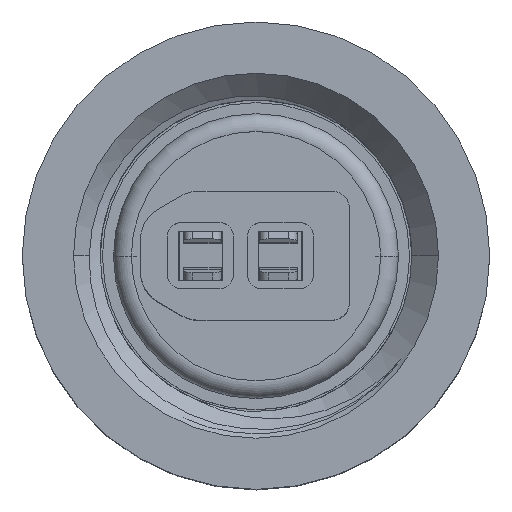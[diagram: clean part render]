
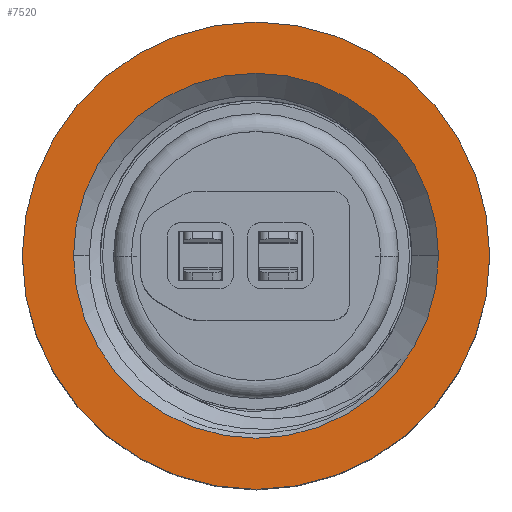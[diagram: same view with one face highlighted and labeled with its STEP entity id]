
A CAD part, top view. The second image highlights one B-rep face of the part: STEP entity #7520.
In plain terms, the highlighted planar face has unit normal (0, 0, 1).
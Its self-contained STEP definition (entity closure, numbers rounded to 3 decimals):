
#907=CARTESIAN_POINT('',(0.,0.,-1.05));
#908=DIRECTION('',(0.,0.,1.));
#909=DIRECTION('',(1.,0.,0.));
#910=AXIS2_PLACEMENT_3D('',#907,#908,#909);
#912=CARTESIAN_POINT('',(0.,0.,-1.05));
#913=DIRECTION('',(0.,0.,1.));
#914=DIRECTION('',(-1.,0.,0.));
#915=AXIS2_PLACEMENT_3D('',#912,#913,#914);
#917=CARTESIAN_POINT('',(0.,0.,-1.05));
#918=DIRECTION('',(0.,0.,-1.));
#919=DIRECTION('',(-1.,0.,0.));
#920=AXIS2_PLACEMENT_3D('',#917,#918,#919);
#922=CARTESIAN_POINT('',(0.,0.,-1.05));
#923=DIRECTION('',(0.,0.,-1.));
#924=DIRECTION('',(1.,0.,0.));
#925=AXIS2_PLACEMENT_3D('',#922,#923,#924);
#5008=CARTESIAN_POINT('',(4.1,0.,-1.05));
#5009=VERTEX_POINT('',#5008);
#5018=CARTESIAN_POINT('',(-4.1,0.,-1.05));
#5019=VERTEX_POINT('',#5018);
#5203=CARTESIAN_POINT('',(-5.25,0.,-1.05));
#5204=CARTESIAN_POINT('',(5.25,0.,-1.05));
#5205=VERTEX_POINT('',#5203);
#5206=VERTEX_POINT('',#5204);
#7505=CARTESIAN_POINT('',(0.,4.1,-1.05));
#7506=DIRECTION('',(0.,0.,-1.));
#7507=DIRECTION('',(-1.,0.,0.));
#7508=AXIS2_PLACEMENT_3D('',#7505,#7506,#7507);
#7509=PLANE('',#7508);
#7511=ORIENTED_EDGE('',*,*,#7510,.F.);
#7513=ORIENTED_EDGE('',*,*,#7512,.F.);
#7514=EDGE_LOOP('',(#7511,#7513));
#7515=FACE_OUTER_BOUND('',#7514,.F.);
#7516=ORIENTED_EDGE('',*,*,#7497,.F.);
#7517=ORIENTED_EDGE('',*,*,#7457,.F.);
#7518=EDGE_LOOP('',(#7516,#7517));
#7519=FACE_BOUND('',#7518,.F.);
#7520=ADVANCED_FACE('',(#7515,#7519),#7509,.F.);
#911=CIRCLE('',#910,5.25);
#916=CIRCLE('',#915,5.25);
#921=CIRCLE('',#920,4.1);
#926=CIRCLE('',#925,4.1);
#7457=EDGE_CURVE('',#5009,#5019,#926,.T.);
#7497=EDGE_CURVE('',#5019,#5009,#921,.T.);
#7510=EDGE_CURVE('',#5206,#5205,#911,.T.);
#7512=EDGE_CURVE('',#5205,#5206,#916,.T.);
